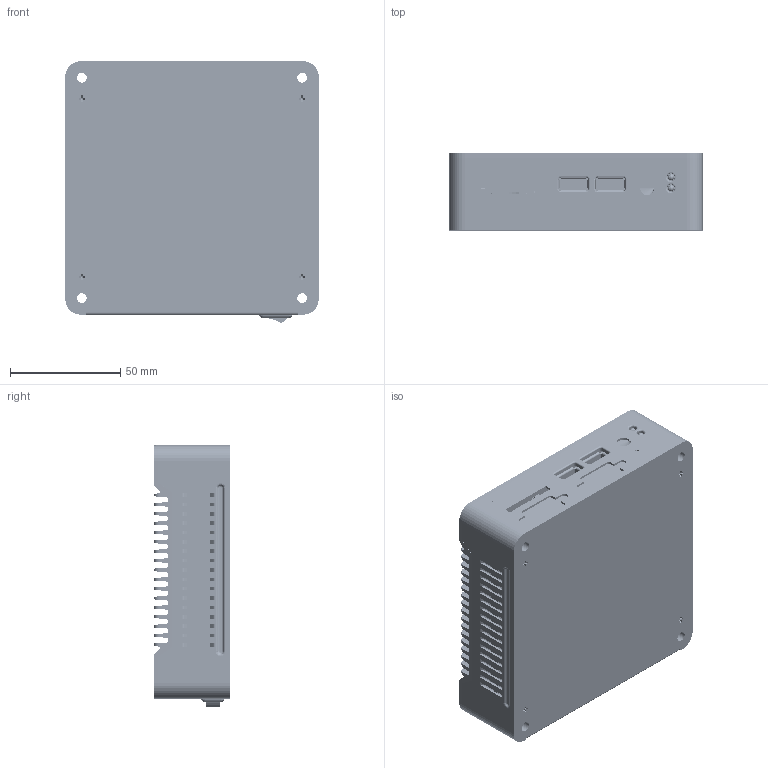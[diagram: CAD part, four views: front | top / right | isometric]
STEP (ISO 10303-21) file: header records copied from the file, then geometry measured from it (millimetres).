
FILE_DESCRIPTION (( 'STEP AP214' ), '1' );
FILE_NAME ('EM-8MM-20920.STEP', '2023-09-01T02:41:30', ( '' ), ( '' ), 'SwSTEP 2.0', 'SolidWorks 2016', '' );
FILE_SCHEMA (( 'AUTOMOTIVE_DESIGN' ));
Length unit declared in the file: millimetre
Products named in the file (27): CNT-001-1_27-84PIN; DM364; EM-8MM-20920; MEMORY; CNT_FOXCONN-JM37115-L1; IDE_DOUBLE_LIGHT-LED3G2X2; SWITCH; CNT_CONN-SCM10P2MM; VEX2-DIP168_ASM; MICRO-SD; CNT-002-1_27-84PIN; 2E0BC2X-S85BE-XH-3D__A; DM395; WHDM-19XXLB2DR; CNT_ASTRON-22-0401-4X-XT; S3L25; CASE-DM395-DN; 1290AP; EMU-BF0522-1B; EMMC; MB_DM395D_PLACEMENT-00-VESA_PC_ASM; CNT_KINGWOOD-K58-AAB2001-4-3-2; EX2; CASE-VPC-BP-MICROSD; W0800WR-S-07PXXX; CNT_CHUN-TONG_DCPOWERJACK; CASE-VPC-UP-IRON
Assembly tree (38 placements, depth 4):
  EM-8MM-20920
    CASE-DM395-DN
    CASE-VPC-UP-IRON
    CASE-VPC-BP-MICROSD
    MB_DM395D_PLACEMENT-00-VESA_PC_ASM
      DM395
      CNT_CHUN-TONG_DCPOWERJACK
      IDE_DOUBLE_LIGHT-LED3G2X2
      CNT_CONN-SCM10P2MM  x4
      WHDM-19XXLB2DR
      2E0BC2X-S85BE-XH-3D__A
      EMU-BF0522-1B
      VEX2-DIP168_ASM
        DM364
        CNT-001-1_27-84PIN  x2
        EX2
        MEMORY  x2
        EMMC
        MICRO-SD
        W0800WR-S-07PXXX
        CNT-002-1_27-84PIN  x2
      CNT_ASTRON-22-0401-4X-XT
      CNT_FOXCONN-JM37115-L1
      CNT_KINGWOOD-K58-AAB2001-4-3-2  x2
      MICRO-SD
      1290AP  x2
    SWITCH
    S3L25  x4
Bounding box: 115.22 x 34.9 x 118.71 mm (x, y, z)
Volume: 50091.6 mm3; surface area: 167214.4 mm2
Topology: 30 solids, 81 shells, 11008 faces, 29869 edges, 19408 vertices
Faces by surface type: plane 8057, cylinder 1833, cone 892, bspline 216, torus 10
Full cylindrical faces by diameter (mm): 6.3 x3
Entity records: 264511 total; most frequent: CARTESIAN_POINT 64521, ORIENTED_EDGE 42463, DIRECTION 37893, EDGE_CURVE 21362, LINE 17557, VECTOR 17557, VERTEX_POINT 14079, AXIS2_PLACEMENT_3D 10168
